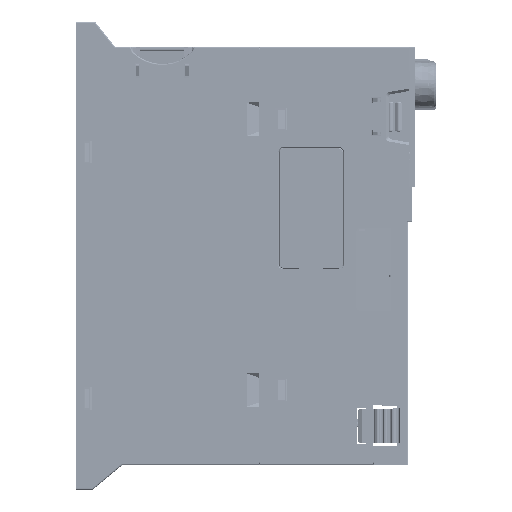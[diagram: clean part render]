
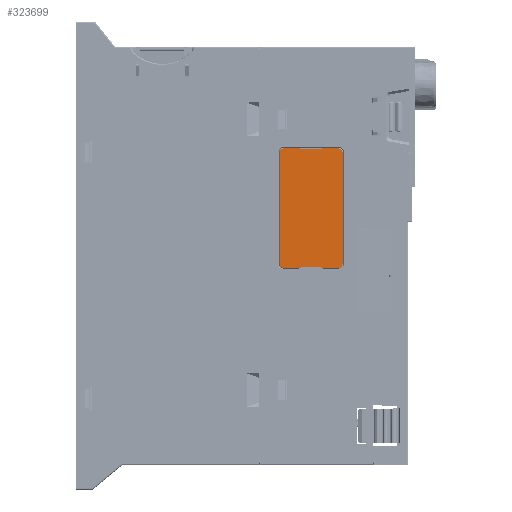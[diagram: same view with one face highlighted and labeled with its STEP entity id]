
A CAD part, top view. The second image highlights one B-rep face of the part: STEP entity #323699.
In plain terms, the highlighted planar face has unit normal (0, 0, 1) as drawn and (0, 1, 0) by its records, which use the part's own axes.
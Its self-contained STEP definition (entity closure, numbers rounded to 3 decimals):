
#312318=DIRECTION('',(0.,0.,1.));
#312319=VECTOR('',#312318,7.738);
#312320=CARTESIAN_POINT('',(-23.893,0.,-3.869));
#312321=LINE('',#312320,#312319);
#312325=DIRECTION('',(0.,0.,1.));
#312326=VECTOR('',#312325,6.807);
#312327=CARTESIAN_POINT('',(-24.293,0.,
-11.2));
#312328=LINE('',#312327,#312326);
#312332=CARTESIAN_POINT('',(-22.7,0.,-11.2));
#312333=DIRECTION('',(0.,1.,0.));
#312334=DIRECTION('',(0.,0.,-1.));
#312335=AXIS2_PLACEMENT_3D('',#312332,#312333,#312334);
#312340=DIRECTION('',(-1.,0.,0.));
#312341=VECTOR('',#312340,45.4);
#312342=CARTESIAN_POINT('',(22.7,0.,
-12.793));
#312343=LINE('',#312342,#312341);
#312347=CARTESIAN_POINT('',(22.7,0.,-11.2));
#312348=DIRECTION('',(0.,1.,0.));
#312349=DIRECTION('',(1.,0.,0.));
#312350=AXIS2_PLACEMENT_3D('',#312347,#312348,#312349);
#312355=DIRECTION('',(0.,0.,-1.));
#312356=VECTOR('',#312355,6.807);
#312357=CARTESIAN_POINT('',(24.293,0.,-4.393));
#312358=LINE('',#312357,#312356);
#312362=DIRECTION('',(-0.707,0.,0.707));
#312363=VECTOR('',#312362,0.441);
#312364=CARTESIAN_POINT('',(24.293,0.,-4.393));
#312365=LINE('',#312364,#312363);
#312369=DIRECTION('',(0.,0.,-1.));
#312370=VECTOR('',#312369,7.738);
#312371=CARTESIAN_POINT('',(23.893,0.,3.869));
#312372=LINE('',#312371,#312370);
#312376=DIRECTION('',(0.,0.,-1.));
#312377=VECTOR('',#312376,6.807);
#312378=CARTESIAN_POINT('',(24.293,0.,
11.2));
#312379=LINE('',#312378,#312377);
#312383=CARTESIAN_POINT('',(22.7,0.,11.2));
#312384=DIRECTION('',(0.,1.,0.));
#312385=DIRECTION('',(0.,0.,1.));
#312386=AXIS2_PLACEMENT_3D('',#312383,#312384,#312385);
#312391=DIRECTION('',(1.,0.,0.));
#312392=VECTOR('',#312391,45.4);
#312393=CARTESIAN_POINT('',(-22.7,0.,
12.793));
#312394=LINE('',#312393,#312392);
#312398=CARTESIAN_POINT('',(-22.7,0.,11.2));
#312399=DIRECTION('',(0.,1.,0.));
#312400=DIRECTION('',(-1.,0.,0.));
#312401=AXIS2_PLACEMENT_3D('',#312398,#312399,#312400);
#312406=DIRECTION('',(0.,0.,1.));
#312407=VECTOR('',#312406,6.807);
#312408=CARTESIAN_POINT('',(-24.293,0.,4.393));
#312409=LINE('',#312408,#312407);
#312434=DIRECTION('',(-0.707,0.,0.707));
#312435=VECTOR('',#312434,0.441);
#312436=CARTESIAN_POINT('',(-23.981,0.,4.081));
#312437=LINE('',#312436,#312435);
#315332=DIRECTION('',(-0.707,0.,-0.707));
#315333=VECTOR('',#315332,0.441);
#315334=CARTESIAN_POINT('',(24.293,0.,4.393));
#315335=LINE('',#315334,#315333);
#315699=CARTESIAN_POINT('',(23.981,0.,4.081));
#315700=CARTESIAN_POINT('',(23.922,0.,4.022));
#315701=CARTESIAN_POINT('',(23.893,0.,3.952));
#315702=CARTESIAN_POINT('',(23.893,0.,3.869));
#315737=CARTESIAN_POINT('',(23.893,0.,-3.869));
#315738=CARTESIAN_POINT('',(23.893,0.,-3.952));
#315739=CARTESIAN_POINT('',(23.922,0.,-4.022));
#315740=CARTESIAN_POINT('',(23.981,0.,-4.081));
#315767=DIRECTION('',(0.707,0.,0.707));
#315768=VECTOR('',#315767,0.441);
#315769=CARTESIAN_POINT('',(-24.293,0.,-4.393));
#315770=LINE('',#315769,#315768);
#315788=CARTESIAN_POINT('',(-23.981,0.,-4.081));
#315789=CARTESIAN_POINT('',(-23.922,0.,-4.022));
#315790=CARTESIAN_POINT('',(-23.893,0.,-3.952));
#315791=CARTESIAN_POINT('',(-23.893,0.,-3.869));
#315826=CARTESIAN_POINT('',(-23.893,0.,3.869));
#315827=CARTESIAN_POINT('',(-23.893,0.,3.952));
#315828=CARTESIAN_POINT('',(-23.922,0.,4.022));
#315829=CARTESIAN_POINT('',(-23.981,0.,4.081));
#322182=CARTESIAN_POINT('',(22.7,0.,12.793));
#322183=CARTESIAN_POINT('',(24.293,0.,11.2));
#322184=VERTEX_POINT('',#322182);
#322185=VERTEX_POINT('',#322183);
#322190=CARTESIAN_POINT('',(24.293,0.,-11.2));
#322191=CARTESIAN_POINT('',(22.7,0.,-12.793));
#322192=VERTEX_POINT('',#322190);
#322193=VERTEX_POINT('',#322191);
#322198=CARTESIAN_POINT('',(-22.7,0.,
-12.793));
#322199=VERTEX_POINT('',#322198);
#322202=CARTESIAN_POINT('',(-24.293,0.,-11.2));
#322203=VERTEX_POINT('',#322202);
#322206=CARTESIAN_POINT('',(-24.293,0.,11.2));
#322207=CARTESIAN_POINT('',(-22.7,0.,12.793));
#322208=VERTEX_POINT('',#322206);
#322209=VERTEX_POINT('',#322207);
#323584=CARTESIAN_POINT('',(24.293,0.,4.393));
#323585=VERTEX_POINT('',#323584);
#323586=CARTESIAN_POINT('',(24.293,0.,-4.393));
#323587=VERTEX_POINT('',#323586);
#323588=CARTESIAN_POINT('',(-24.293,0.,-4.393));
#323589=VERTEX_POINT('',#323588);
#323590=CARTESIAN_POINT('',(-24.293,0.,4.393));
#323591=VERTEX_POINT('',#323590);
#323600=CARTESIAN_POINT('',(-23.981,0.,-4.081));
#323602=VERTEX_POINT('',#323600);
#323604=CARTESIAN_POINT('',(-23.893,0.,-3.869));
#323606=VERTEX_POINT('',#323604);
#323609=CARTESIAN_POINT('',(-23.981,0.,4.081));
#323611=VERTEX_POINT('',#323609);
#323613=CARTESIAN_POINT('',(-23.893,0.,3.869));
#323615=VERTEX_POINT('',#323613);
#323617=CARTESIAN_POINT('',(23.981,0.,-4.081));
#323619=VERTEX_POINT('',#323617);
#323621=CARTESIAN_POINT('',(23.893,0.,-3.869));
#323623=VERTEX_POINT('',#323621);
#323624=CARTESIAN_POINT('',(23.981,0.,4.081));
#323626=VERTEX_POINT('',#323624);
#323628=CARTESIAN_POINT('',(23.893,0.,3.869));
#323630=VERTEX_POINT('',#323628);
#323652=CARTESIAN_POINT('',(0.,0.,0.));
#323653=DIRECTION('',(0.,1.,0.));
#323654=DIRECTION('',(1.,0.,0.));
#323655=AXIS2_PLACEMENT_3D('',#323652,#323653,#323654);
#323656=PLANE('',#323655);
#323658=ORIENTED_EDGE('',*,*,#323657,.F.);
#323660=ORIENTED_EDGE('',*,*,#323659,.F.);
#323662=ORIENTED_EDGE('',*,*,#323661,.F.);
#323664=ORIENTED_EDGE('',*,*,#323663,.F.);
#323666=ORIENTED_EDGE('',*,*,#323665,.F.);
#323668=ORIENTED_EDGE('',*,*,#323667,.F.);
#323670=ORIENTED_EDGE('',*,*,#323669,.F.);
#323672=ORIENTED_EDGE('',*,*,#323671,.F.);
#323674=ORIENTED_EDGE('',*,*,#323673,.F.);
#323676=ORIENTED_EDGE('',*,*,#323675,.F.);
#323678=ORIENTED_EDGE('',*,*,#323677,.T.);
#323680=ORIENTED_EDGE('',*,*,#323679,.F.);
#323682=ORIENTED_EDGE('',*,*,#323681,.F.);
#323684=ORIENTED_EDGE('',*,*,#323683,.F.);
#323686=ORIENTED_EDGE('',*,*,#323685,.F.);
#323688=ORIENTED_EDGE('',*,*,#323687,.F.);
#323690=ORIENTED_EDGE('',*,*,#323689,.F.);
#323692=ORIENTED_EDGE('',*,*,#323691,.F.);
#323694=ORIENTED_EDGE('',*,*,#323693,.F.);
#323696=ORIENTED_EDGE('',*,*,#323695,.F.);
#323697=EDGE_LOOP('',(#323658,#323660,#323662,#323664,#323666,#323668,#323670,
#323672,#323674,#323676,#323678,#323680,#323682,#323684,#323686,#323688,#323690,
#323692,#323694,#323696));
#323698=FACE_OUTER_BOUND('',#323697,.F.);
#323699=ADVANCED_FACE('',(#323698),#323656,.T.);
#312336=CIRCLE('',#312335,1.593);
#312351=CIRCLE('',#312350,1.593);
#312387=CIRCLE('',#312386,1.593);
#312402=CIRCLE('',#312401,1.593);
#315703=B_SPLINE_CURVE_WITH_KNOTS('',3,(#315699,#315700,#315701,#315702),
.UNSPECIFIED.,.F.,.F.,(4,4),(0.,1.),.UNSPECIFIED.);
#315741=B_SPLINE_CURVE_WITH_KNOTS('',3,(#315737,#315738,#315739,#315740),
.UNSPECIFIED.,.F.,.F.,(4,4),(0.,1.),.UNSPECIFIED.);
#315792=B_SPLINE_CURVE_WITH_KNOTS('',3,(#315788,#315789,#315790,#315791),
.UNSPECIFIED.,.F.,.F.,(4,4),(0.,1.),.UNSPECIFIED.);
#315830=B_SPLINE_CURVE_WITH_KNOTS('',3,(#315826,#315827,#315828,#315829),
.UNSPECIFIED.,.F.,.F.,(4,4),(0.,1.),.UNSPECIFIED.);
#323657=EDGE_CURVE('',#323611,#323591,#312437,.T.);
#323659=EDGE_CURVE('',#323615,#323611,#315830,.T.);
#323661=EDGE_CURVE('',#323606,#323615,#312321,.T.);
#323663=EDGE_CURVE('',#323602,#323606,#315792,.T.);
#323665=EDGE_CURVE('',#323589,#323602,#315770,.T.);
#323667=EDGE_CURVE('',#322203,#323589,#312328,.T.);
#323669=EDGE_CURVE('',#322199,#322203,#312336,.T.);
#323671=EDGE_CURVE('',#322193,#322199,#312343,.T.);
#323673=EDGE_CURVE('',#322192,#322193,#312351,.T.);
#323675=EDGE_CURVE('',#323587,#322192,#312358,.T.);
#323677=EDGE_CURVE('',#323587,#323619,#312365,.T.);
#323679=EDGE_CURVE('',#323623,#323619,#315741,.T.);
#323681=EDGE_CURVE('',#323630,#323623,#312372,.T.);
#323683=EDGE_CURVE('',#323626,#323630,#315703,.T.);
#323685=EDGE_CURVE('',#323585,#323626,#315335,.T.);
#323687=EDGE_CURVE('',#322185,#323585,#312379,.T.);
#323689=EDGE_CURVE('',#322184,#322185,#312387,.T.);
#323691=EDGE_CURVE('',#322209,#322184,#312394,.T.);
#323693=EDGE_CURVE('',#322208,#322209,#312402,.T.);
#323695=EDGE_CURVE('',#323591,#322208,#312409,.T.);
